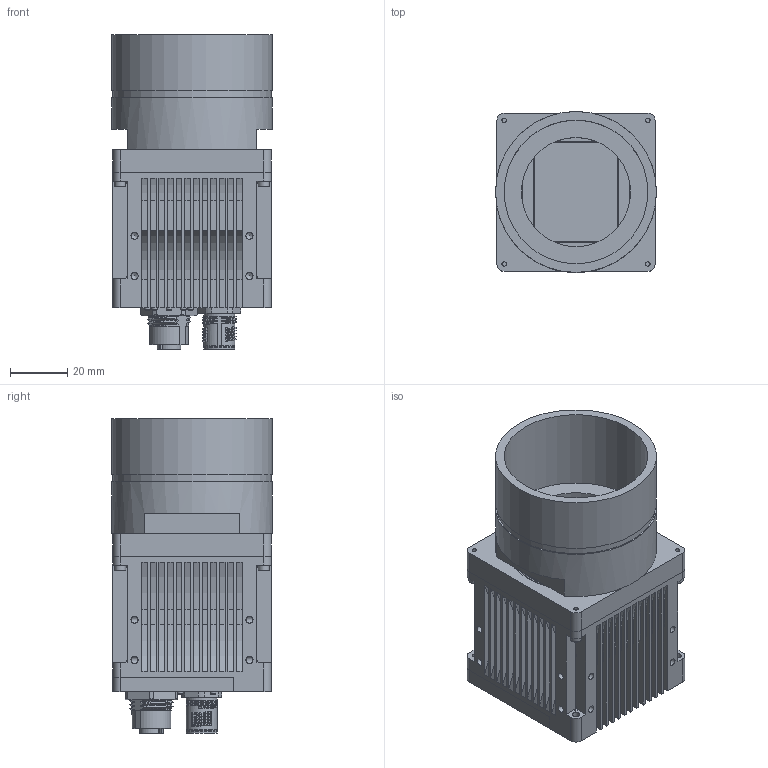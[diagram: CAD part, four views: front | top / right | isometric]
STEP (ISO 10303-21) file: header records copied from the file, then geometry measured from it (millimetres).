
FILE_DESCRIPTION(/* description */ ('C6-3070-GigE_M42x1_ (F-Mount)'),/* implementation_level */ '2;1');
FILE_NAME(/* name */ 'C6-3070-GigE_M42x1_ with F-Mount Adapter (Option).iam.stp',/* time_stamp */ '2025-05-19T09:43:30+02:00',/* author */ ('AT'),/* organization */ ('Automation Technology GmbH'),/* preprocessor_version */ 'ST-DEVELOPER v20',/* originating_system */ 'Autodesk Inventor 2024',/* authorisation */ '');
FILE_SCHEMA (('AUTOMOTIVE_DESIGN { 1 0 10303 214 3 1 1 }'));
Products named in the file (17): C6-3070-GigE_M42x1_ (F-Mount); 102903401-009_a; 202203000-033; 102903401-002_Public; C6-3070_Public; ISO 4762  - M2 x 6; M42-F-Mount 40mm Adapter; SACC-DSI-MS-17CON-M12 SCO SH_1437119-02; SACC-DSI-MS-17CON-M12 SCO SH_1437119_Stecker; SACC-DSI-MS-17CON-M12 SCO SH_1437119_Mutter; SACC-DSI-MS-17CON-M12 SCO SH_1437119_Pins; SACC-DSI-MS-17CON-M12 SCO SH_1437119_Kunststoffeinsatz; SACC-DSI-FS-8CON-L180_SCO SH_1553860-02; SACC-DSI-FS-8CON-L180_SCO SH_1553860_Stecker; SACC-DSI-FS-8CON-L180_SCO SH_1553860_Mutter; SACC-DSI-FS-8CON-L180_SCO SH_1553860_Kunststoffeinsatz; 1292.6001
Assembly tree (27 placements, depth 3):
  C6-3070-GigE_M42x1_ (F-Mount)
    102903401-009_a
    202203000-033
    102903401-002_Public
    C6-3070_Public
    ISO 4762  - M2 x 6  x8
    M42-F-Mount 40mm Adapter
    SACC-DSI-MS-17CON-M12 SCO SH_1437119-02
      SACC-DSI-MS-17CON-M12 SCO SH_1437119_Stecker
      SACC-DSI-MS-17CON-M12 SCO SH_1437119_Mutter
      SACC-DSI-MS-17CON-M12 SCO SH_1437119_Pins
      SACC-DSI-MS-17CON-M12 SCO SH_1437119_Kunststoffeinsatz
    SACC-DSI-FS-8CON-L180_SCO SH_1553860-02
      SACC-DSI-FS-8CON-L180_SCO SH_1553860_Stecker
      SACC-DSI-FS-8CON-L180_SCO SH_1553860_Mutter
      SACC-DSI-FS-8CON-L180_SCO SH_1553860_Kunststoffeinsatz
    1292.6001  x5
Bounding box: 56 x 56 x 109.55 mm (x, y, z)
Volume: 95850.6 mm3; surface area: 80791.4 mm2
Topology: 44 solids, 44 shells, 1815 faces, 4597 edges, 3024 vertices
Faces by surface type: plane 887, cylinder 562, bspline 179, cone 95, torus 58, sphere 34
Full cylindrical faces by diameter (mm): 0.217 x1, 0.6 x25, 0.63 x34, 0.9 x8, 1 x10, 1.1 x17, 1.2 x17, 1.221 x4, 1.5 x5, 1.567 x16, 1.6 x5, 2 x19, 2.2 x8, 2.459 x18, 3.8 x8, 4 x4, 7.7 x1, 8.25 x2, 8.3 x1, 8.7 x1, 10.5 x1, 10.7 x3, 10.917 x2, 12 x1, 12.2 x1, 12.9 x2, 13.9 x1, 14 x1, 14.5 x1, 15.7 x1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
Entity records: 87525 total; most frequent: CARTESIAN_POINT 45476, ORIENTED_EDGE 8518, DIRECTION 8194, EDGE_CURVE 4259, AXIS2_PLACEMENT_3D 2905, VERTEX_POINT 2835, LINE 2384, VECTOR 2384
